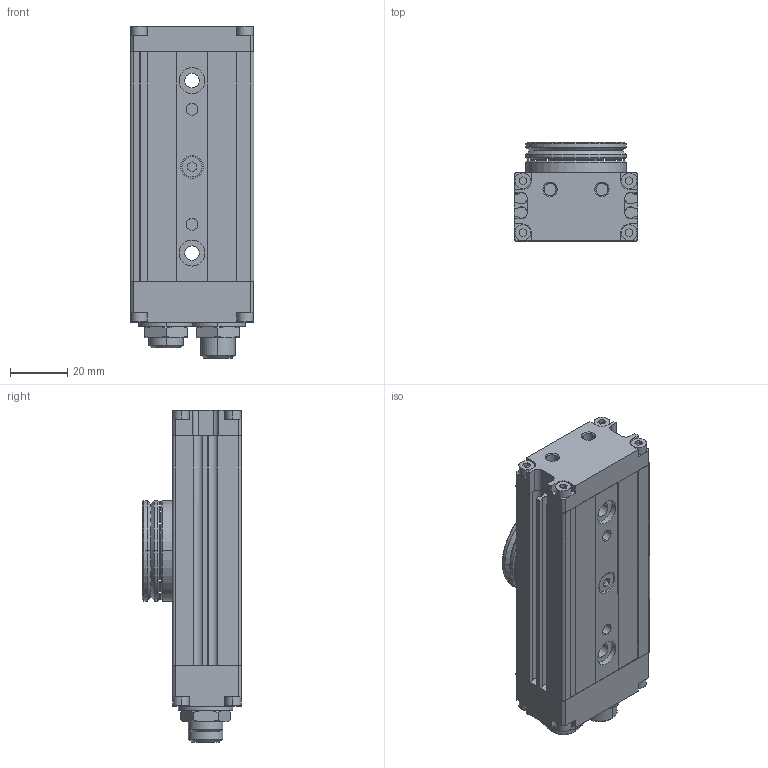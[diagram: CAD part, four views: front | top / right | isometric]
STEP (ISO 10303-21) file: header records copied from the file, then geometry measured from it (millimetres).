
FILE_DESCRIPTION((''),'2;1');
FILE_NAME('R412000361_ASM','2023-07-17T14:21:41',('THD3HC'),(''),'CREO PARAMETRIC BY PTC INC, 2020044','CREO PARAMETRIC BY PTC INC, 2020044','');
FILE_SCHEMA(('CONFIG_CONTROL_DESIGN','SHAPE_APPEARANCE_LAYERS_GROUPS'));
Length unit declared in the file: millimetre
Products named in the file (5): R412000361-A; R412000361-B; R412000361-C; R412000361-D; R412000361_ASM
Assembly tree (6 placements, depth 2):
  R412000361_ASM
    R412000361-A
    R412000361-B
    R412000361-C  x2
    R412000361-D  x2
Bounding box: 43 x 34.45 x 115.5 mm (x, y, z)
Volume: 108709.3 mm3; surface area: 33938.1 mm2
Topology: 6 solids, 6 shells, 499 faces, 1162 edges, 734 vertices
Faces by surface type: plane 270, cylinder 153, cone 76
Entity records: 18659 total; most frequent: CARTESIAN_POINT 2373, DIRECTION 2282, ORIENTED_EDGE 2084, PRESENTATION_STYLE_ASSIGNMENT 1253, STYLED_ITEM 1046, CURVE_STYLE 1042, EDGE_CURVE 1042, AXIS2_PLACEMENT_3D 811
